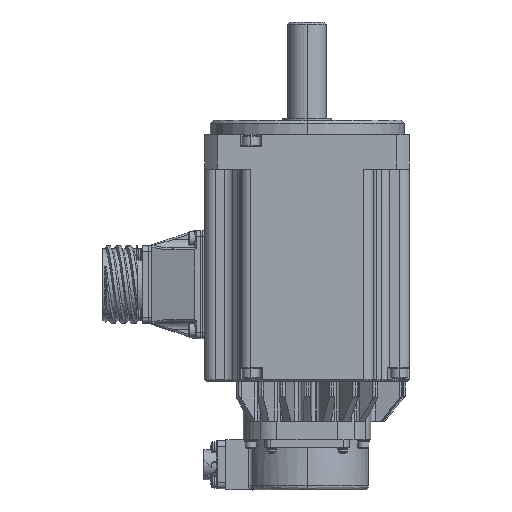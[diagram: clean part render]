
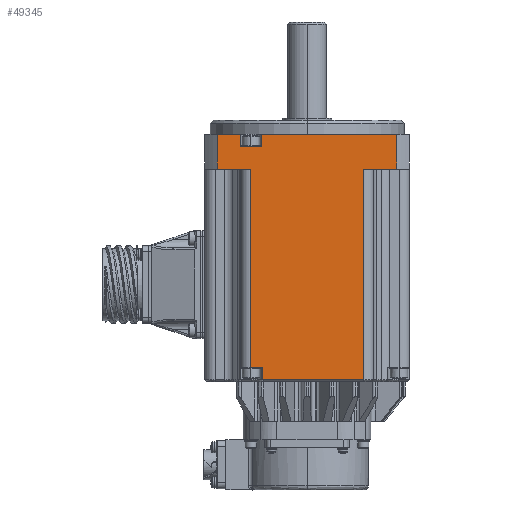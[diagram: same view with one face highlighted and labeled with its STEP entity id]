
A CAD part, left-side view. The second image highlights one B-rep face of the part: STEP entity #49345.
In plain terms, the highlighted planar face has unit normal (-1, 0, 0).
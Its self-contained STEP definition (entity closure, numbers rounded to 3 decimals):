
#807 = AXIS2_PLACEMENT_3D ( 'NONE', #53769, #34949, #79360 ) ;
#1252 = CARTESIAN_POINT ( 'NONE',  ( -9.787, -41.458, 10.57 ) ) ;
#2118 = FACE_OUTER_BOUND ( 'NONE', #53428, .T. ) ;
#2581 = CARTESIAN_POINT ( 'NONE',  ( -9.787, -41.458, 27.57 ) ) ;
#2778 = PLANE ( 'NONE',  #807 ) ;
#2827 = VERTEX_POINT ( 'NONE', #67438 ) ;
#3530 = LINE ( 'NONE', #15609, #69046 ) ;
#4211 = CARTESIAN_POINT ( 'NONE',  ( -9.787, -30.114, 27.57 ) ) ;
#4342 = ORIENTED_EDGE ( 'NONE', *, *, #30989, .F. ) ;
#4466 = CARTESIAN_POINT ( 'NONE',  ( -9.787, -25.114, 10.57 ) ) ;
#5036 = CARTESIAN_POINT ( 'NONE',  ( -9.787, 46.229, 10.57 ) ) ;
#5265 = CARTESIAN_POINT ( 'NONE',  ( -9.787, 34.886, 27.57 ) ) ;
#7297 = VECTOR ( 'NONE', #49510, 1000. ) ;
#8138 = LINE ( 'NONE', #65510, #73629 ) ;
#8435 = EDGE_CURVE ( 'NONE', #10475, #77014, #8138, .T. ) ;
#8493 = CARTESIAN_POINT ( 'NONE',  ( -9.787, 2.386, 10.57 ) ) ;
#8958 = VECTOR ( 'NONE', #61617, 1000. ) ;
#10475 = VERTEX_POINT ( 'NONE', #5265 ) ;
#10672 = CARTESIAN_POINT ( 'NONE',  ( -9.787, 24.386, -76.93 ) ) ;
#14225 = VECTOR ( 'NONE', #78881, 1000. ) ;
#14912 = VERTEX_POINT ( 'NONE', #36690 ) ;
#15609 = CARTESIAN_POINT ( 'NONE',  ( -9.787, -30.114, -92.43 ) ) ;
#15853 = CARTESIAN_POINT ( 'NONE',  ( -9.787, 46.229, -76.93 ) ) ;
#16737 = ORIENTED_EDGE ( 'NONE', *, *, #58589, .F. ) ;
#17097 = DIRECTION ( 'NONE',  ( 0., 0., 1. ) ) ;
#18437 = ORIENTED_EDGE ( 'NONE', *, *, #45749, .F. ) ;
#19364 = EDGE_CURVE ( 'NONE', #22278, #14912, #72912, .T. ) ;
#19560 = ORIENTED_EDGE ( 'NONE', *, *, #53915, .F. ) ;
#21716 = CARTESIAN_POINT ( 'NONE',  ( -9.787, -30.114, -86.43 ) ) ;
#21997 = DIRECTION ( 'NONE',  ( 0., 1., 0. ) ) ;
#22278 = VERTEX_POINT ( 'NONE', #79176 ) ;
#22301 = VECTOR ( 'NONE', #38948, 1000. ) ;
#22566 = ORIENTED_EDGE ( 'NONE', *, *, #25427, .F. ) ;
#22991 = VERTEX_POINT ( 'NONE', #43972 ) ;
#23604 = CARTESIAN_POINT ( 'NONE',  ( -9.787, -41.458, -76.93 ) ) ;
#25062 = LINE ( 'NONE', #51539, #58774 ) ;
#25427 = EDGE_CURVE ( 'NONE', #50059, #81657, #59581, .T. ) ;
#26151 = LINE ( 'NONE', #43158, #7297 ) ;
#26177 = LINE ( 'NONE', #42268, #41038 ) ;
#27464 = DIRECTION ( 'NONE',  ( 0., 1., 0. ) ) ;
#27610 = LINE ( 'NONE', #8493, #33579 ) ;
#28086 = DIRECTION ( 'NONE',  ( 0., 1., 0. ) ) ;
#28535 = VERTEX_POINT ( 'NONE', #31361 ) ;
#29961 = VERTEX_POINT ( 'NONE', #52715 ) ;
#30989 = EDGE_CURVE ( 'NONE', #2827, #29961, #36313, .T. ) ;
#31152 = CARTESIAN_POINT ( 'NONE',  ( -9.787, 24.886, -76.93 ) ) ;
#31361 = CARTESIAN_POINT ( 'NONE',  ( -9.787, 24.886, 21.57 ) ) ;
#32360 = VERTEX_POINT ( 'NONE', #4466 ) ;
#32567 = CARTESIAN_POINT ( 'NONE',  ( -9.787, 29.886, -76.93 ) ) ;
#33579 = VECTOR ( 'NONE', #65628, 1000. ) ;
#34253 = VECTOR ( 'NONE', #27464, 1000. ) ;
#34338 = VECTOR ( 'NONE', #17097, 1000. ) ;
#34949 = DIRECTION ( 'NONE',  ( 1., 0., 0. ) ) ;
#35329 = ORIENTED_EDGE ( 'NONE', *, *, #8435, .F. ) ;
#36313 = LINE ( 'NONE', #10672, #34338 ) ;
#36690 = CARTESIAN_POINT ( 'NONE',  ( -9.787, 29.886, 10.57 ) ) ;
#37361 = CARTESIAN_POINT ( 'NONE',  ( -9.787, 46.229, 27.57 ) ) ;
#38948 = DIRECTION ( 'NONE',  ( 0., 0., 1. ) ) ;
#39167 = EDGE_CURVE ( 'NONE', #14912, #79253, #27610, .T. ) ;
#40076 = ORIENTED_EDGE ( 'NONE', *, *, #54396, .F. ) ;
#40248 = DIRECTION ( 'NONE',  ( 0., 0., -1. ) ) ;
#41038 = VECTOR ( 'NONE', #74192, 1000. ) ;
#42268 = CARTESIAN_POINT ( 'NONE',  ( -9.787, -30.114, 21.57 ) ) ;
#43158 = CARTESIAN_POINT ( 'NONE',  ( -9.787, -25.114, -129.18 ) ) ;
#43903 = ORIENTED_EDGE ( 'NONE', *, *, #78694, .F. ) ;
#43972 = CARTESIAN_POINT ( 'NONE',  ( -9.787, -25.114, -92.43 ) ) ;
#45749 = EDGE_CURVE ( 'NONE', #32360, #22991, #26151, .T. ) ;
#46068 = ORIENTED_EDGE ( 'NONE', *, *, #55239, .F. ) ;
#46586 = CARTESIAN_POINT ( 'NONE',  ( -9.787, 2.386, 10.57 ) ) ;
#46622 = CARTESIAN_POINT ( 'NONE',  ( -9.787, 24.886, 27.57 ) ) ;
#47190 = VECTOR ( 'NONE', #49954, 1000. ) ;
#48709 = VECTOR ( 'NONE', #53766, 1000. ) ;
#49345 = ADVANCED_FACE ( 'NONE', ( #2118 ), #2778, .F. ) ;
#49510 = DIRECTION ( 'NONE',  ( 0., 0., -1. ) ) ;
#49954 = DIRECTION ( 'NONE',  ( 0., 0., 1. ) ) ;
#50059 = VERTEX_POINT ( 'NONE', #2581 ) ;
#51111 = LINE ( 'NONE', #46586, #34253 ) ;
#51539 = CARTESIAN_POINT ( 'NONE',  ( -9.787, -30.114, 27.57 ) ) ;
#52394 = ORIENTED_EDGE ( 'NONE', *, *, #74533, .F. ) ;
#52715 = CARTESIAN_POINT ( 'NONE',  ( -9.787, 24.386, -86.43 ) ) ;
#53428 = EDGE_LOOP ( 'NONE', ( #46068, #4342, #19560, #18437, #40076, #22566, #76348, #66256, #43903, #35329, #52394, #16737, #67998, #75658 ) ) ;
#53766 = DIRECTION ( 'NONE',  ( 0., 0., 1. ) ) ;
#53769 = CARTESIAN_POINT ( 'NONE',  ( -9.787, -30.114, -76.93 ) ) ;
#53915 = EDGE_CURVE ( 'NONE', #22991, #2827, #3530, .T. ) ;
#54396 = EDGE_CURVE ( 'NONE', #81657, #32360, #51111, .T. ) ;
#55239 = EDGE_CURVE ( 'NONE', #29961, #22278, #65940, .T. ) ;
#57406 = EDGE_CURVE ( 'NONE', #77282, #50059, #25062, .T. ) ;
#57932 = DIRECTION ( 'NONE',  ( 0., -1., 0. ) ) ;
#58589 = EDGE_CURVE ( 'NONE', #79253, #59460, #65631, .T. ) ;
#58774 = VECTOR ( 'NONE', #57932, 1000. ) ;
#59460 = VERTEX_POINT ( 'NONE', #37361 ) ;
#59581 = LINE ( 'NONE', #23604, #8958 ) ;
#61617 = DIRECTION ( 'NONE',  ( 0., 0., -1. ) ) ;
#64095 = LINE ( 'NONE', #31152, #47190 ) ;
#65510 = CARTESIAN_POINT ( 'NONE',  ( -9.787, 34.886, -76.93 ) ) ;
#65628 = DIRECTION ( 'NONE',  ( 0., 1., 0. ) ) ;
#65631 = LINE ( 'NONE', #15853, #48709 ) ;
#65940 = LINE ( 'NONE', #21716, #67909 ) ;
#66256 = ORIENTED_EDGE ( 'NONE', *, *, #71485, .F. ) ;
#67438 = CARTESIAN_POINT ( 'NONE',  ( -9.787, 24.386, -92.43 ) ) ;
#67909 = VECTOR ( 'NONE', #28086, 1000. ) ;
#67998 = ORIENTED_EDGE ( 'NONE', *, *, #39167, .F. ) ;
#69046 = VECTOR ( 'NONE', #21997, 1000. ) ;
#71485 = EDGE_CURVE ( 'NONE', #28535, #77282, #64095, .T. ) ;
#72912 = LINE ( 'NONE', #32567, #22301 ) ;
#73629 = VECTOR ( 'NONE', #40248, 1000. ) ;
#74192 = DIRECTION ( 'NONE',  ( 0., -1., 0. ) ) ;
#74533 = EDGE_CURVE ( 'NONE', #59460, #10475, #79720, .T. ) ;
#75658 = ORIENTED_EDGE ( 'NONE', *, *, #19364, .F. ) ;
#76348 = ORIENTED_EDGE ( 'NONE', *, *, #57406, .F. ) ;
#77014 = VERTEX_POINT ( 'NONE', #78197 ) ;
#77282 = VERTEX_POINT ( 'NONE', #46622 ) ;
#78197 = CARTESIAN_POINT ( 'NONE',  ( -9.787, 34.886, 21.57 ) ) ;
#78694 = EDGE_CURVE ( 'NONE', #77014, #28535, #26177, .T. ) ;
#78881 = DIRECTION ( 'NONE',  ( 0., -1., 0. ) ) ;
#79176 = CARTESIAN_POINT ( 'NONE',  ( -9.787, 29.886, -86.43 ) ) ;
#79253 = VERTEX_POINT ( 'NONE', #5036 ) ;
#79360 = DIRECTION ( 'NONE',  ( 0., 0., -1. ) ) ;
#79720 = LINE ( 'NONE', #4211, #14225 ) ;
#81657 = VERTEX_POINT ( 'NONE', #1252 ) ;
